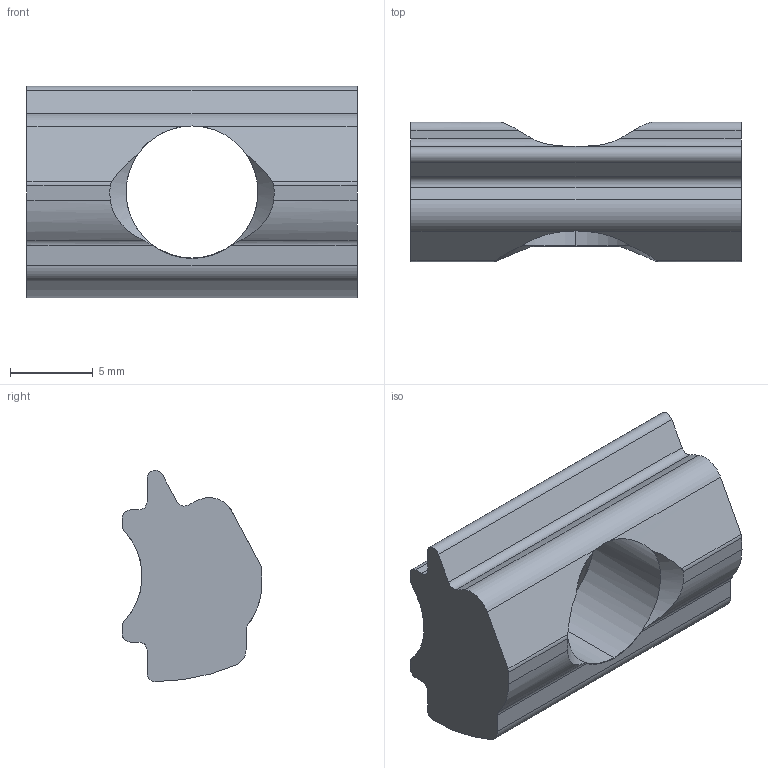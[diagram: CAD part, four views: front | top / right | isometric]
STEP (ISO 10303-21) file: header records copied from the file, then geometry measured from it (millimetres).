
FILE_DESCRIPTION((''),'2;1');
FILE_NAME('E:\端から修正\NAMT-08.stp','2013-11-07T16:24:43',('AMS8'),(''),'Autodesk Inventor 2008','Autodesk Inventor 2008','');
FILE_SCHEMA(('AUTOMOTIVE_DESIGN { 1 0 10303 214 1 1 1 1 }'));
Length unit declared in the file: millimetre
Products named in the file (2): DEFAULT; DEFAULTA
Assembly tree (1 placements, depth 2):
  DEFAULT
    DEFAULTA
Bounding box: 20 x 8.45 x 12.8 mm (x, y, z)
Volume: 1111.1 mm3; surface area: 930.3 mm2
Topology: 1 solids, 1 shells, 49 faces, 163 edges, 114 vertices
Faces by surface type: cylinder 27, plane 18, cone 4
Entity records: 1979 total; most frequent: CARTESIAN_POINT 539, ORIENTED_EDGE 326, DIRECTION 264, EDGE_CURVE 163, VERTEX_POINT 114, AXIS2_PLACEMENT_3D 98, VECTOR 68, LINE 68
